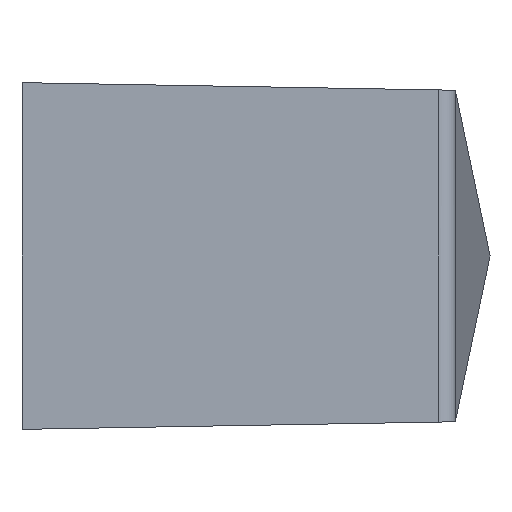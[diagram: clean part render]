
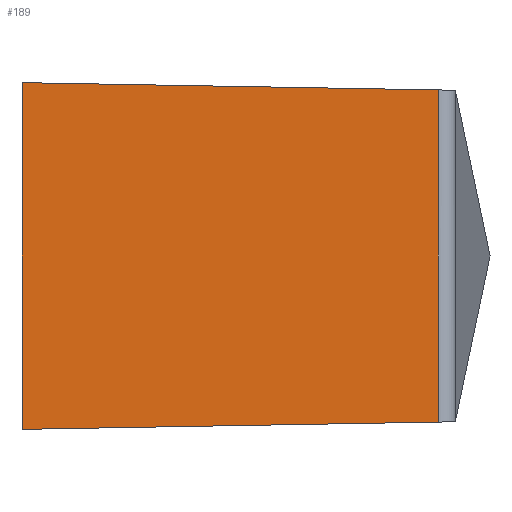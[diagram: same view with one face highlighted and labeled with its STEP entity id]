
A CAD part, left-side view. The second image highlights one B-rep face of the part: STEP entity #189.
In plain terms, the highlighted planar face has unit normal (-1, -0.018, 0).
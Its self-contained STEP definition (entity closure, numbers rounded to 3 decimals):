
#189 = ADVANCED_FACE( '', ( #453 ), #454, .T. );
#213 = VERTEX_POINT( '', #480 );
#217 = VERTEX_POINT( '', #484 );
#247 = EDGE_CURVE( '', #383, #279, #517, .T. );
#279 = VERTEX_POINT( '', #554 );
#291 = EDGE_CURVE( '', #383, #217, #566, .T. );
#371 = EDGE_CURVE( '', #279, #213, #654, .T. );
#373 = EDGE_CURVE( '', #213, #217, #656, .T. );
#383 = VERTEX_POINT( '', #668 );
#453 = FACE_OUTER_BOUND( '', #742, .T. );
#454 = PLANE( '', #743 );
#480 = CARTESIAN_POINT( '', ( -5., 0., -10. ) );
#484 = CARTESIAN_POINT( '', ( -4.581, -24.017, -9.581 ) );
#517 = LINE( '', #821, #822 );
#554 = CARTESIAN_POINT( '', ( -5., 0., 10. ) );
#566 = LINE( '', #886, #887 );
#654 = LINE( '', #1022, #1023 );
#656 = LINE( '', #1026, #1027 );
#668 = CARTESIAN_POINT( '', ( -4.581, -24.017, 9.581 ) );
#742 = EDGE_LOOP( '', ( #1114, #1115, #1116, #1117 ) );
#743 = AXIS2_PLACEMENT_3D( '', #1118, #1119, #1120 );
#821 = CARTESIAN_POINT( '', ( -4.741, -14.842, 9.741 ) );
#822 = VECTOR( '', #1188, 1. );
#886 = CARTESIAN_POINT( '', ( -4.581, -24.017, 10. ) );
#887 = VECTOR( '', #1239, 1. );
#1022 = CARTESIAN_POINT( '', ( -5., 0., 10. ) );
#1023 = VECTOR( '', #1332, 1. );
#1026 = CARTESIAN_POINT( '', ( -4.956, -2.521, -9.956 ) );
#1027 = VECTOR( '', #1333, 1. );
#1114 = ORIENTED_EDGE( '', *, *, #373, .T. );
#1115 = ORIENTED_EDGE( '', *, *, #291, .F. );
#1116 = ORIENTED_EDGE( '', *, *, #247, .T. );
#1117 = ORIENTED_EDGE( '', *, *, #371, .T. );
#1118 = CARTESIAN_POINT( '', ( -5., 0., 10. ) );
#1119 = DIRECTION( '', ( -1., -0.017, 0. ) );
#1120 = DIRECTION( '', ( -0.017, 1., 0. ) );
#1188 = DIRECTION( '', ( -0.017, 1., 0.017 ) );
#1239 = DIRECTION( '', ( 0., 0., -1. ) );
#1332 = DIRECTION( '', ( 0., 0., -1. ) );
#1333 = DIRECTION( '', ( 0.017, -1., 0.017 ) );
